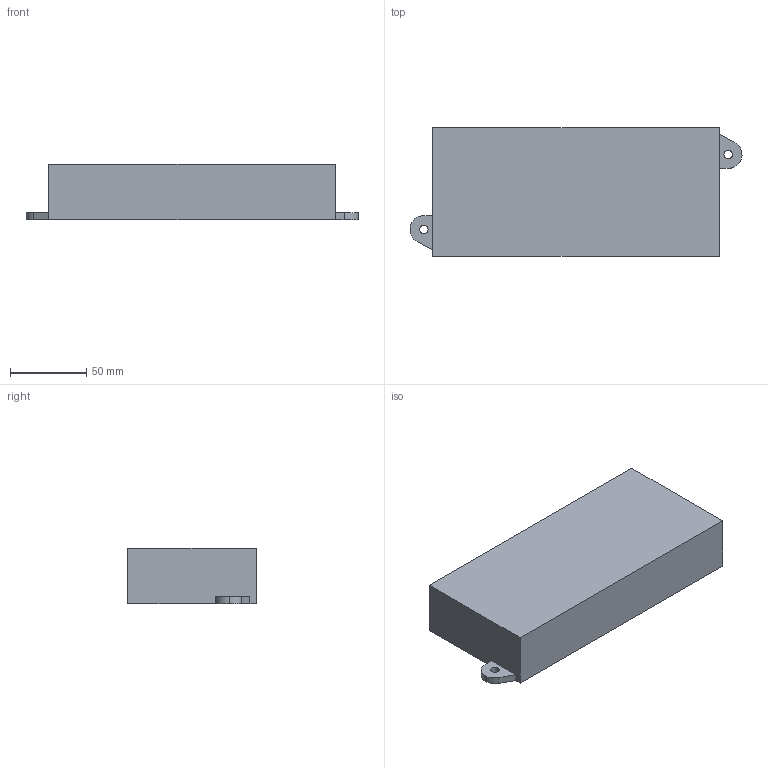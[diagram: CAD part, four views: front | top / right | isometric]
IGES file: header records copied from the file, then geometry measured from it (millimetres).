
Start section: Data from Parasolid IGES Translator 20.0.26, Copyright(c) 2006 Siemens P LM Software. All Rights Reserved.
Global section: file name: 9262098.igs; native system: By Siemens PLM Incorporated; preprocessor: XPlus GENERIC/IGES 20.0.26; author: Noname; organization: Noname; date: 20210407.163213; units: millimetre
Bounding box: 218.19 x 84.52 x 36.51 mm (x, y, z)
Surface area: 53009.9 mm2 (no closed solid volume)
Topology: 0 solids, 0 shells, 17 faces, 90 edges, 88 vertices
Faces by surface type: extrusion 12, revolution 5
